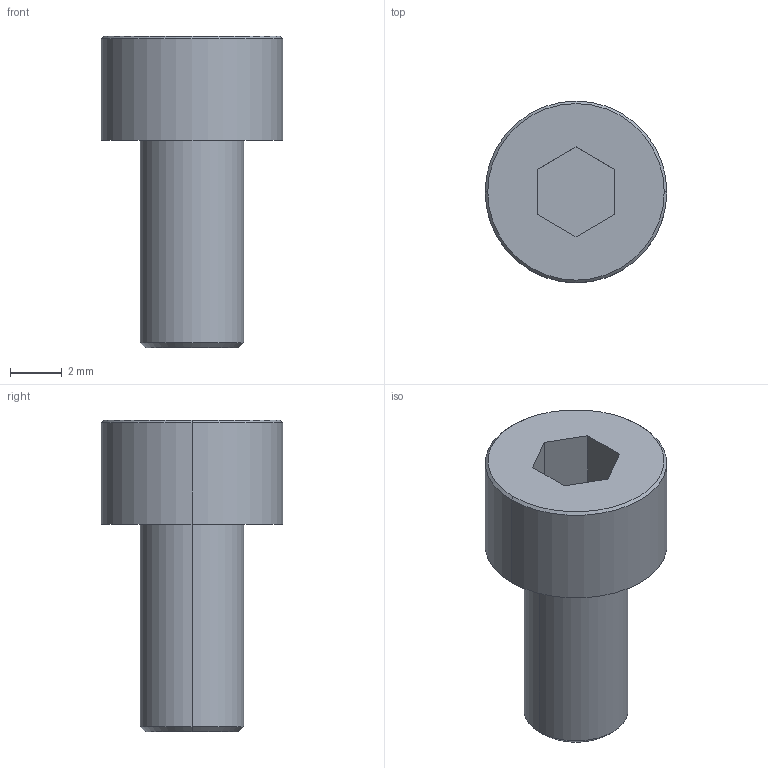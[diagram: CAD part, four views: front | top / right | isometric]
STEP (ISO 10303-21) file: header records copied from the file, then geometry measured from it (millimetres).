
FILE_DESCRIPTION (( 'STEP AP214' ), '1' );
FILE_NAME ('Cap SCREW M4 X6 MM.STEP', '2024-06-18T05:08:53', ( '' ), ( '' ), 'SwSTEP 2.0', 'SolidWorks 2023', '' );
FILE_SCHEMA (( 'AUTOMOTIVE_DESIGN' ));
Length unit declared in the file: millimetre
Products named in the file (1): Cap SCREW M4 X6 MM
Bounding box: 7 x 7 x 12 mm (x, y, z)
Volume: 230.7 mm3; surface area: 293.8 mm2
Topology: 1 solids, 1 shells, 18 faces, 38 edges, 24 vertices
Faces by surface type: plane 10, cone 4, cylinder 4
Entity records: 505 total; most frequent: DIRECTION 88, CARTESIAN_POINT 81, ORIENTED_EDGE 76, EDGE_CURVE 38, AXIS2_PLACEMENT_3D 31, LINE 26, VECTOR 26, VERTEX_POINT 24
